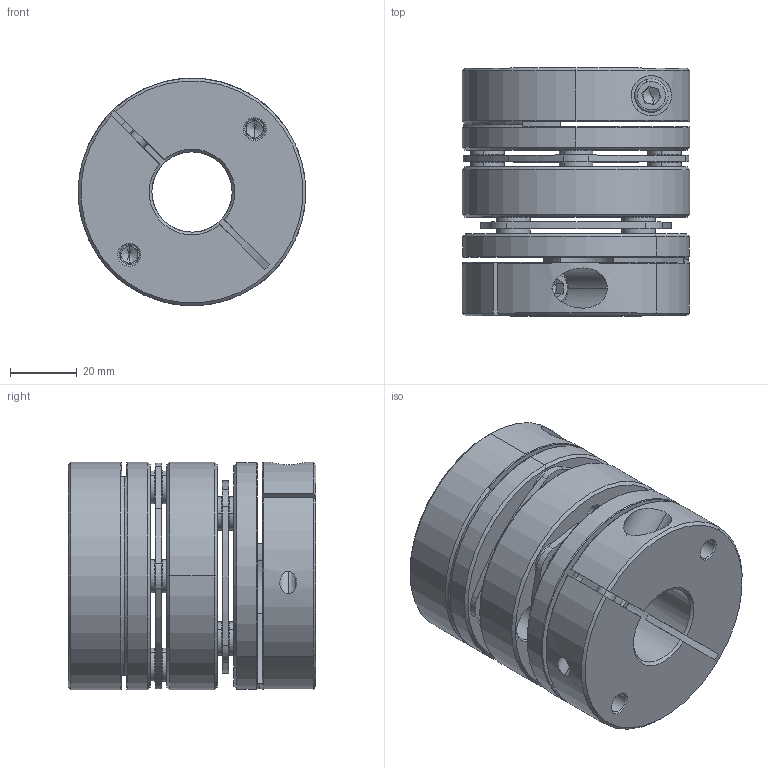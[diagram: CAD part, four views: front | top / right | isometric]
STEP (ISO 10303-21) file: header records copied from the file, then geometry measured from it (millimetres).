
FILE_DESCRIPTION (( 'STEP AP203' ), '1' );
FILE_NAME ('LD2-D68-24-24.STEP', '2021-10-26T08:40:13', ( '' ), ( '' ), 'SwSTEP 2.0', 'SolidWorks 2018', '' );
FILE_SCHEMA (( 'CONFIG_CONTROL_DESIGN' ));
Length unit declared in the file: millimetre
Products named in the file (2): LD2-D68-24-24; 錨璃102^LD2-D68
Assembly tree (1 placements, depth 2):
  LD2-D68-24-24
    錨璃102^LD2-D68
Bounding box: 68 x 74 x 68 mm (x, y, z)
Volume: 183476.3 mm3; surface area: 64116.9 mm2
Topology: 1 solids, 27 shells, 732 faces, 1696 edges, 1032 vertices
Faces by surface type: cylinder 256, cone 226, plane 220, torus 30
Entity records: 21398 total; most frequent: DIRECTION 3974, CARTESIAN_POINT 3912, ORIENTED_EDGE 3344, EDGE_CURVE 1672, AXIS2_PLACEMENT_3D 1614, VERTEX_POINT 1032, CIRCLE 878, EDGE_LOOP 868
